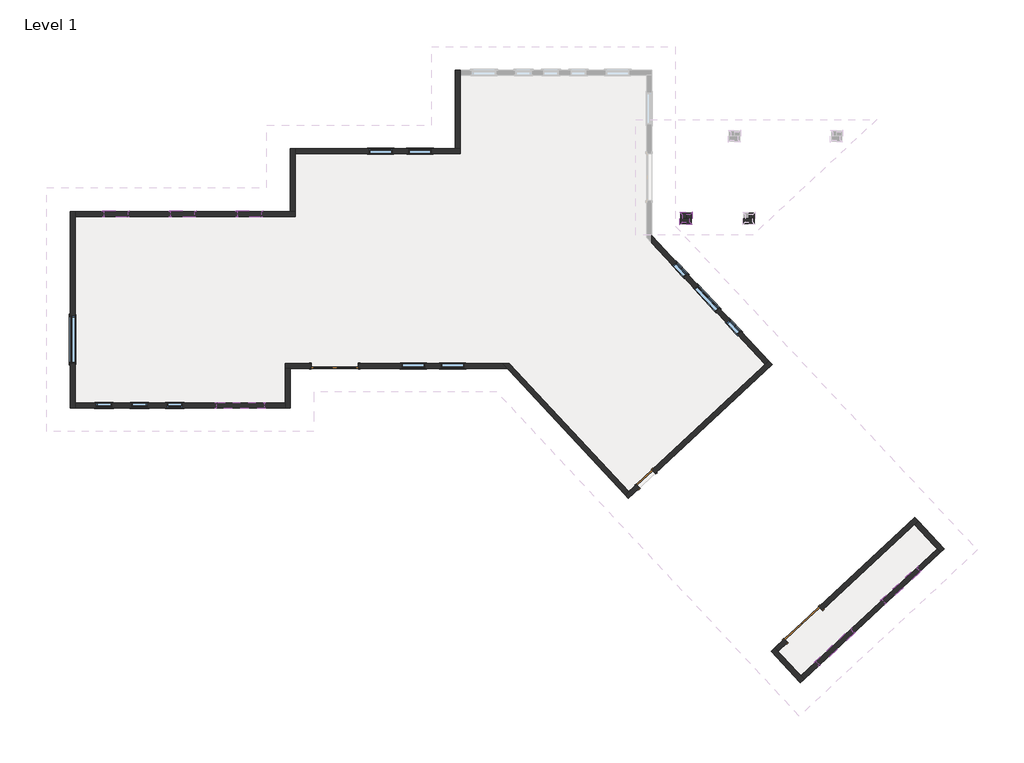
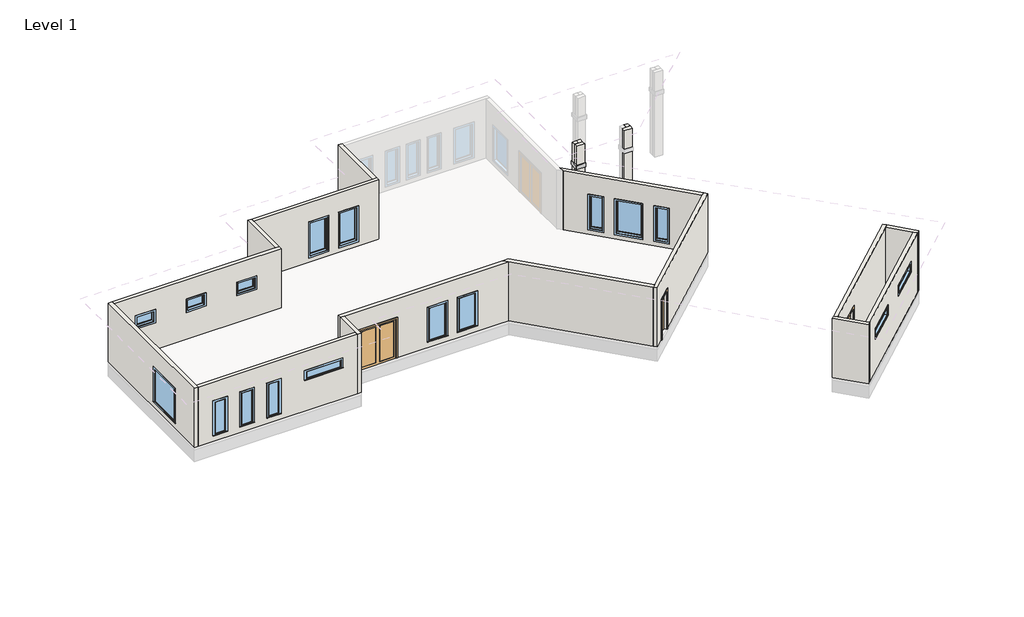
# One storey, part 1 of 2: 21 walls, 17 windows, 4 proxies, 3 doors.
"""IFC4 building model written with IfcOpenShell, lengths in millimetres."""

from ifc_helpers import new_model, si_unit, frame, origin, place, context, project, spatial, polyline, outline, extrude, faceted_brep, transform, mapped, element, save
from components import door_e0fa97f4, door_ae1b4af6, door_46f97d73, window_8ec664a6, window_aa1e092f, window_eea7dd42, window_e6bbc231, window_97fb18ba, window_4d68e60d, window_bde21944

model = new_model("IFC4")

# Units and contexts
model_context = context("Model", 3, world=origin())
ifc_project = project(units=[si_unit("LENGTHUNIT", "METRE", prefix="MILLI")], contexts=[model_context])

# Site, building, storey
site = spatial("IfcSite", under=ifc_project)
building = spatial("IfcBuilding", under=site)
storey = spatial("IfcBuildingStorey", under=building, Name="Level 1", Elevation=0.0)

# Proxies
placement = place(None, origin())
element("IfcBuildingElementProxy", 1, Name="Reveals", at=placement, inside=storey, context=model_context, shape_type="SweptSolid", body=[
    extrude(outline(polyline([(23652.4450389, 7110.4125), (23744.5200389, 7202.4875), (24039.7950389, 7202.4875), (24131.8700389, 7110.4125), (23652.4450389, 7110.4125)])), frame((0.0, 0.0, 2438.4), z_axis=(0.0, 0.0, 1.0), x_axis=(1.0, 0.0, 0.0)), (0.0, 0.0, 1.0), 203.2),
])
element("IfcBuildingElementProxy", 2, Name="Reveals", at=placement, inside=storey, context=model_context, shape_type="SweptSolid", body=[
    extrude(outline(polyline([(24131.8700389, 7110.4125), (24039.7950389, 7202.4875), (24039.7950389, 7497.7625), (24131.8700389, 7589.8375), (24131.8700389, 7110.4125)])), frame((0.0, 0.0, 2438.4), z_axis=(0.0, 0.0, 1.0), x_axis=(1.0, 0.0, 0.0)), (0.0, 0.0, 1.0), 203.2),
])
element("IfcBuildingElementProxy", 3, Name="Reveals", at=placement, inside=storey, context=model_context, shape_type="SweptSolid", body=[
    extrude(outline(polyline([(24131.8700389, 7589.8375), (24039.7950389, 7497.7625), (23744.5200389, 7497.7625), (23652.4450389, 7589.8375), (24131.8700389, 7589.8375)])), frame((0.0, 0.0, 2438.4), z_axis=(0.0, 0.0, 1.0), x_axis=(1.0, 0.0, 0.0)), (0.0, 0.0, 1.0), 203.2),
])
element("IfcBuildingElementProxy", 4, Name="Reveals", at=placement, inside=storey, context=model_context, shape_type="SweptSolid", body=[
    extrude(outline(polyline([(23744.5200389, 7202.4875), (23652.4450389, 7110.4125), (23652.4450389, 7589.8375), (23744.5200389, 7497.7625), (23744.5200389, 7202.4875)])), frame((0.0, 0.0, 2438.4), z_axis=(0.0, 0.0, 1.0), x_axis=(1.0, 0.0, 0.0)), (0.0, 0.0, 1.0), 203.2),
])

# Doors
door_shape = door_e0fa97f4(model_context)
element("IfcDoor", 5, ObjectType="Double-Flush : 72\" x 84\"", at=placement, inside=storey, context=model_context, shape_type="MappedRepresentation", body=[
    mapped(door_shape, transform((28439.8331583, -8417.4822972, 0.0), x_axis=(0.7313537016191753, 0.6819983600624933, 0.0), y_axis=(-0.6819983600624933, 0.7313537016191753, 0.0), z_axis=(0.0, 0.0, 1.0))),
])
door_2_shape = door_ae1b4af6(model_context)
element("IfcDoor", 6, ObjectType="Double-Glass 1 : 72\" x 84\"", at=placement, inside=storey, context=model_context, shape_type="MappedRepresentation", body=[
    mapped(door_2_shape, transform((10266.3625, 1623.21875, 0.0), x_axis=(-1.0, 0.0, 0.0), y_axis=(0.0, -1.0, 0.0), z_axis=(0.0, 0.0, 1.0))),
])
door_3_shape = door_46f97d73(model_context)
element("IfcDoor", 7, ObjectType="Single-Flush : 32\" x 84\"", at=placement, inside=storey, context=model_context, shape_type="MappedRepresentation", body=[
    mapped(door_3_shape, transform((22332.9588196, -2762.5051319, 0.0), x_axis=(-0.7313537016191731, -0.6819983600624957, 0.0), y_axis=(0.6819983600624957, -0.7313537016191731, 0.0), z_axis=(0.0, 0.0, 1.0))),
])

# Walls
element("IfcWall", 8, ObjectType="Column - 8\" Concrete", at=placement, inside=storey, context=model_context, shape_type="Brep", body=[
    faceted_brep([(23693.7200389, 7151.6875, -914.4), (24090.5950389, 7151.6875, -914.4), (24090.5950389, 7151.6875, 2438.4), (23693.7200389, 7151.6875, 2438.4), (24090.5950389, 7151.6875, 3657.6), (23693.7200389, 7151.6875, 3657.6), (23693.7200389, 7151.6875, 2641.6), (24090.5950389, 7151.6875, 2641.6), (24090.5950389, 7345.3625, -914.4), (23896.9200389, 7345.3625, -914.4), (23887.3950389, 7345.3625, -914.4), (23693.7200389, 7345.3625, -914.4), (23693.7200389, 7345.3625, 2438.4), (23744.5200389, 7345.3625, 2438.4), (23744.5200389, 7345.3625, 2641.6), (23693.7200389, 7345.3625, 2641.6), (23693.7200389, 7345.3625, 3657.6), (23887.3950389, 7345.3625, 3657.6), (23896.9200389, 7345.3625, 3657.6), (24090.5950389, 7345.3625, 3657.6), (24090.5950389, 7345.3625, 2641.6), (24039.7950389, 7345.3625, 2641.6), (24039.7950389, 7345.3625, 2438.4), (24090.5950389, 7345.3625, 2438.4), (23744.5200389, 7202.4875, 2641.6), (23744.5200389, 7202.4875, 2438.4), (24039.7950389, 7202.4875, 2438.4), (24039.7950389, 7202.4875, 2641.6)], [[[0, 1, 2, 3]], [[4, 5, 6, 7]], [[8, 9, 10, 11, 12, 13, 14, 15, 16, 17, 18, 19, 20, 21, 22, 23]], [[1, 0, 11, 10, 9, 8]], [[1, 8, 23, 2]], [[19, 4, 7, 20]], [[24, 25, 26, 27]], [[27, 26, 22, 21]], [[11, 0, 3, 12]], [[5, 16, 15, 6]], [[24, 27, 21, 20, 7, 6, 15, 14]], [[26, 25, 13, 12, 3, 2, 23, 22]], [[25, 24, 14, 13]], [[5, 4, 19, 18, 17, 16]]]),
])
element("IfcWall", 9, ObjectType="Column - 8\" Concrete", at=placement, inside=storey, context=model_context, shape_type="Brep", body=[
    faceted_brep([(24090.5950389, 7345.3625, -914.4), (24090.5950389, 7548.5625, -914.4), (24090.5950389, 7548.5625, 2438.4), (24090.5950389, 7345.3625, 2438.4), (24090.5950389, 7548.5625, 3657.6), (24090.5950389, 7345.3625, 3657.6), (24090.5950389, 7345.3625, 2641.6), (24090.5950389, 7548.5625, 2641.6), (23896.9200389, 7548.5625, -914.4), (23896.9200389, 7354.8875, -914.4), (23896.9200389, 7345.3625, -914.4), (23896.9200389, 7345.3625, 3657.6), (23896.9200389, 7354.8875, 3657.6), (23896.9200389, 7548.5625, 3657.6), (23896.9200389, 7548.5625, 2641.6), (23896.9200389, 7497.7625, 2641.6), (23896.9200389, 7497.7625, 2438.4), (23896.9200389, 7548.5625, 2438.4), (24039.7950389, 7345.3625, 2438.4), (24039.7950389, 7345.3625, 2641.6), (24039.7950389, 7497.7625, 2641.6), (24039.7950389, 7497.7625, 2438.4)], [[[0, 1, 2, 3]], [[4, 5, 6, 7]], [[8, 9, 10, 11, 12, 13, 14, 15, 16, 17]], [[1, 0, 10, 9, 8]], [[11, 10, 0, 3, 18, 19, 6, 5]], [[1, 8, 17, 2]], [[13, 4, 7, 14]], [[19, 20, 15, 14, 7, 6]], [[16, 21, 18, 3, 2, 17]], [[21, 20, 19, 18]], [[20, 21, 16, 15]], [[5, 4, 13, 12, 11]]]),
])
element("IfcWall", 10, ObjectType="Column - 8\" Concrete", at=placement, inside=storey, context=model_context, shape_type="Brep", body=[
    faceted_brep([(23896.9200389, 7548.5625, -914.4), (23693.7200389, 7548.5625, -914.4), (23693.7200389, 7548.5625, 2438.4), (23896.9200389, 7548.5625, 2438.4), (23693.7200389, 7548.5625, 3657.6), (23896.9200389, 7548.5625, 3657.6), (23896.9200389, 7548.5625, 2641.6), (23693.7200389, 7548.5625, 2641.6), (23693.7200389, 7354.8875, -914.4), (23887.3950389, 7354.8875, -914.4), (23896.9200389, 7354.8875, -914.4), (23896.9200389, 7354.8875, 3657.6), (23887.3950389, 7354.8875, 3657.6), (23693.7200389, 7354.8875, 3657.6), (23693.7200389, 7354.8875, 2641.6), (23744.5200389, 7354.8875, 2641.6), (23744.5200389, 7354.8875, 2438.4), (23693.7200389, 7354.8875, 2438.4), (23896.9200389, 7497.7625, 2438.4), (23896.9200389, 7497.7625, 2641.6), (23744.5200389, 7497.7625, 2641.6), (23744.5200389, 7497.7625, 2438.4)], [[[0, 1, 2, 3]], [[4, 5, 6, 7]], [[8, 9, 10, 11, 12, 13, 14, 15, 16, 17]], [[1, 0, 10, 9, 8]], [[11, 10, 0, 3, 18, 19, 6, 5]], [[19, 20, 15, 14, 7, 6]], [[16, 21, 18, 3, 2, 17]], [[21, 20, 19, 18]], [[1, 8, 17, 2]], [[13, 4, 7, 14]], [[20, 21, 16, 15]], [[5, 4, 13, 12, 11]]]),
])
element("IfcWall", 11, ObjectType="Column - 8\" Concrete", at=placement, inside=storey, context=model_context, shape_type="SweptSolid", body=[
    extrude(outline(polyline([(-914.4, 23887.3950389), (3657.6, 23887.3950389), (3657.6, 23693.7200389), (2641.6, 23693.7200389), (2641.6, 23744.5200389), (2438.4, 23744.5200389), (2438.4, 23693.7200389), (-914.4, 23693.7200389), (-914.4, 23887.3950389)])), frame((0.0, 7345.3625, 0.0), z_axis=(0.0, 1.0, 0.0), x_axis=(0.0, 0.0, 1.0)), (0.0, 0.0, 1.0), 9.525),
])
element("IfcWall", 12, ObjectType="Column - 8\" Concrete", at=placement, inside=storey, context=model_context, shape_type="Brep", body=[
    faceted_brep([(26132.1200389, 7151.6875, -914.4), (26528.9950389, 7151.6875, -914.4), (26528.9950389, 7151.6875, 2438.4), (26132.1200389, 7151.6875, 2438.4), (26528.9950389, 7151.6875, 3657.6), (26132.1200389, 7151.6875, 3657.6), (26132.1200389, 7151.6875, 2641.6), (26528.9950389, 7151.6875, 2641.6), (26528.9950389, 7345.3625, -914.4), (26335.3200389, 7345.3625, -914.4), (26325.7950389, 7345.3625, -914.4), (26132.1200389, 7345.3625, -914.4), (26132.1200389, 7345.3625, 2438.4), (26182.9200389, 7345.3625, 2438.4), (26182.9200389, 7345.3625, 2641.6), (26132.1200389, 7345.3625, 2641.6), (26132.1200389, 7345.3625, 3657.6), (26325.7950389, 7345.3625, 3657.6), (26335.3200389, 7345.3625, 3657.6), (26528.9950389, 7345.3625, 3657.6), (26528.9950389, 7345.3625, 2641.6), (26478.1950389, 7345.3625, 2641.6), (26478.1950389, 7345.3625, 2438.4), (26528.9950389, 7345.3625, 2438.4), (26182.9200389, 7202.4875, 2641.6), (26182.9200389, 7202.4875, 2438.4), (26478.1950389, 7202.4875, 2438.4), (26478.1950389, 7202.4875, 2641.6)], [[[0, 1, 2, 3]], [[4, 5, 6, 7]], [[8, 9, 10, 11, 12, 13, 14, 15, 16, 17, 18, 19, 20, 21, 22, 23]], [[1, 0, 11, 10, 9, 8]], [[1, 8, 23, 2]], [[19, 4, 7, 20]], [[24, 25, 26, 27]], [[27, 26, 22, 21]], [[11, 0, 3, 12]], [[5, 16, 15, 6]], [[24, 27, 21, 20, 7, 6, 15, 14]], [[26, 25, 13, 12, 3, 2, 23, 22]], [[25, 24, 14, 13]], [[5, 4, 19, 18, 17, 16]]]),
])
element("IfcWall", 13, ObjectType="Column - 8\" Concrete", at=placement, inside=storey, context=model_context, shape_type="Brep", body=[
    faceted_brep([(26528.9950389, 7345.3625, -914.4), (26528.9950389, 7548.5625, -914.4), (26528.9950389, 7548.5625, 2438.4), (26528.9950389, 7345.3625, 2438.4), (26528.9950389, 7548.5625, 3657.6), (26528.9950389, 7345.3625, 3657.6), (26528.9950389, 7345.3625, 2641.6), (26528.9950389, 7548.5625, 2641.6), (26335.3200389, 7548.5625, -914.4), (26335.3200389, 7354.8875, -914.4), (26335.3200389, 7345.3625, -914.4), (26335.3200389, 7345.3625, 3657.6), (26335.3200389, 7354.8875, 3657.6), (26335.3200389, 7548.5625, 3657.6), (26335.3200389, 7548.5625, 2641.6), (26335.3200389, 7497.7625, 2641.6), (26335.3200389, 7497.7625, 2438.4), (26335.3200389, 7548.5625, 2438.4), (26478.1950389, 7345.3625, 2438.4), (26478.1950389, 7345.3625, 2641.6), (26478.1950389, 7497.7625, 2641.6), (26478.1950389, 7497.7625, 2438.4)], [[[0, 1, 2, 3]], [[4, 5, 6, 7]], [[8, 9, 10, 11, 12, 13, 14, 15, 16, 17]], [[1, 0, 10, 9, 8]], [[11, 10, 0, 3, 18, 19, 6, 5]], [[1, 8, 17, 2]], [[13, 4, 7, 14]], [[19, 20, 15, 14, 7, 6]], [[16, 21, 18, 3, 2, 17]], [[21, 20, 19, 18]], [[20, 21, 16, 15]], [[5, 4, 13, 12, 11]]]),
])
element("IfcWall", 14, ObjectType="Generic - 8\" Concrete", at=placement, inside=storey, context=model_context, shape_type="Brep", body=[
    faceted_brep([(193.675, 0.0, 0.0), (193.675, 193.675, 0.0), (193.675, 7426.325, 0.0), (193.675, 7620.0, 0.0), (193.675, 7620.0, 3200.4), (193.675, 7426.325, 3200.4), (193.675, 193.675, 3200.4), (193.675, 0.0, 3200.4), (193.675, 3560.7625, 2133.6), (193.675, 3560.7625, 304.8), (193.675, 1731.9625, 304.8), (193.675, 1731.9625, 2133.6), (0.0, 0.0, 0.0), (0.0, 0.0, 3200.4), (0.0, 7620.0, 3200.4), (0.0, 7620.0, 0.0), (0.0, 3560.7625, 2133.6), (0.0, 1731.9625, 2133.6), (0.0, 1731.9625, 304.8), (0.0, 3560.7625, 304.8)], [[[0, 1, 2, 3, 4, 5, 6, 7], [8, 9, 10, 11]], [[12, 13, 14, 15], [16, 17, 18, 19]], [[3, 2, 1, 0, 12, 15]], [[4, 3, 15, 14]], [[0, 7, 13, 12]], [[7, 6, 5, 4, 14, 13]], [[9, 8, 16, 19]], [[10, 9, 19, 18]], [[11, 10, 18, 17]], [[8, 11, 17, 16]]]),
])
element("IfcWall", 15, ObjectType="Generic - 8\" Concrete", at=placement, inside=storey, context=model_context, shape_type="Brep", body=[
    faceted_brep([(193.675, 7426.325, 0.0), (8728.075, 7426.325, 0.0), (8728.075, 7426.325, 3200.4), (193.675, 7426.325, 3200.4), (7412.0375, 7426.325, 2133.6), (7412.0375, 7426.325, 1524.0), (6497.6375, 7426.325, 1524.0), (6497.6375, 7426.325, 2133.6), (4821.2375, 7426.325, 2133.6), (4821.2375, 7426.325, 1524.0), (3906.8375, 7426.325, 1524.0), (3906.8375, 7426.325, 2133.6), (2230.4375, 7426.325, 2133.6), (2230.4375, 7426.325, 1524.0), (1316.0375, 7426.325, 1524.0), (1316.0375, 7426.325, 2133.6), (193.675, 7620.0, 0.0), (193.675, 7620.0, 3200.4), (8534.4, 7620.0, 3200.4), (8728.075, 7620.0, 3200.4), (8728.075, 7620.0, 0.0), (8534.4, 7620.0, 0.0), (7412.0375, 7620.0, 2133.6), (6497.6375, 7620.0, 2133.6), (6497.6375, 7620.0, 1524.0), (7412.0375, 7620.0, 1524.0), (4821.2375, 7620.0, 2133.6), (3906.8375, 7620.0, 2133.6), (3906.8375, 7620.0, 1524.0), (4821.2375, 7620.0, 1524.0), (2230.4375, 7620.0, 2133.6), (1316.0375, 7620.0, 2133.6), (1316.0375, 7620.0, 1524.0), (2230.4375, 7620.0, 1524.0)], [[[0, 1, 2, 3], [4, 5, 6, 7], [8, 9, 10, 11], [12, 13, 14, 15]], [[16, 17, 18, 19, 20, 21], [22, 23, 24, 25], [26, 27, 28, 29], [30, 31, 32, 33]], [[1, 0, 16, 21, 20]], [[0, 3, 17, 16]], [[2, 1, 20, 19]], [[3, 2, 19, 18, 17]], [[5, 4, 22, 25]], [[6, 5, 25, 24]], [[7, 6, 24, 23]], [[4, 7, 23, 22]], [[9, 8, 26, 29]], [[10, 9, 29, 28]], [[11, 10, 28, 27]], [[8, 11, 27, 26]], [[13, 12, 30, 33]], [[14, 13, 33, 32]], [[15, 14, 32, 31]], [[12, 15, 31, 30]]]),
])
element("IfcWall", 16, ObjectType="Generic - 8\" Concrete", at=placement, inside=storey, context=model_context, shape_type="Brep", body=[
    faceted_brep([(8728.075, 7620.0, 0.0), (8728.075, 9864.725, 0.0), (8728.075, 10058.4, 0.0), (8728.075, 10058.4, 3200.4), (8728.075, 9864.725, 3200.4), (8728.075, 7620.0, 3200.4), (8534.4, 7620.0, 0.0), (8534.4, 7620.0, 3200.4), (8534.4, 10058.4, 3200.4), (8534.4, 10058.4, 0.0)], [[[0, 1, 2, 3, 4, 5]], [[6, 7, 8, 9]], [[2, 1, 0, 6, 9]], [[0, 5, 7, 6]], [[3, 2, 9, 8]], [[5, 4, 3, 8, 7]]]),
])
element("IfcWall", 17, ObjectType="Generic - 8\" Concrete", at=placement, inside=storey, context=model_context, shape_type="Brep", body=[
    faceted_brep([(8728.075, 9864.725, 0.0), (15128.875, 9864.725, 0.0), (15128.875, 9864.725, 3200.4), (8728.075, 9864.725, 3200.4), (12505.6485918, 9864.725, 2133.6), (12505.6485918, 9864.725, 304.8), (11591.2485918, 9864.725, 304.8), (11591.2485918, 9864.725, 2133.6), (14029.6485918, 9864.725, 2133.6), (14029.6485918, 9864.725, 304.8), (13115.2485918, 9864.725, 304.8), (13115.2485918, 9864.725, 2133.6), (8728.075, 10058.4, 0.0), (8728.075, 10058.4, 3200.4), (14935.2, 10058.4, 3200.4), (15128.875, 10058.4, 3200.4), (15128.875, 10058.4, 0.0), (14935.2, 10058.4, 0.0), (12505.6485918, 10058.4, 2133.6), (11591.2485918, 10058.4, 2133.6), (11591.2485918, 10058.4, 304.8), (12505.6485918, 10058.4, 304.8), (14029.6485918, 10058.4, 2133.6), (13115.2485918, 10058.4, 2133.6), (13115.2485918, 10058.4, 304.8), (14029.6485918, 10058.4, 304.8)], [[[0, 1, 2, 3], [4, 5, 6, 7], [8, 9, 10, 11]], [[12, 13, 14, 15, 16, 17], [18, 19, 20, 21], [22, 23, 24, 25]], [[1, 0, 12, 17, 16]], [[0, 3, 13, 12]], [[2, 1, 16, 15]], [[3, 2, 15, 14, 13]], [[5, 4, 18, 21]], [[6, 5, 21, 20]], [[7, 6, 20, 19]], [[4, 7, 19, 18]], [[9, 8, 22, 25]], [[10, 9, 25, 24]], [[11, 10, 24, 23]], [[8, 11, 23, 22]]]),
])
element("IfcWall", 18, ObjectType="Generic - 8\" Concrete", at=placement, inside=storey, context=model_context, shape_type="Brep", body=[
    faceted_brep([(15128.875, 10058.4, 0.0), (15128.875, 12912.725, 0.0), (15128.875, 13106.4, 0.0), (15128.875, 13106.4, 3200.4), (15128.875, 12912.725, 3200.4), (15128.875, 10058.4, 3200.4), (14935.2, 10058.4, 0.0), (14935.2, 10058.4, 3200.4), (14935.2, 13106.4, 3200.4), (14935.2, 13106.4, 0.0)], [[[0, 1, 2, 3, 4, 5]], [[6, 7, 8, 9]], [[2, 1, 0, 6, 9]], [[0, 5, 7, 6]], [[3, 2, 9, 8]], [[5, 4, 3, 8, 7]]]),
])
element("IfcWall", 19, ObjectType="Generic - 8\" Concrete", at=placement, inside=storey, context=model_context, shape_type="Brep", body=[
    faceted_brep([(21969.6936591, -2968.8468013, 2133.6), (21969.6936591, -2968.8468013, 0.0), (21668.9884427, -3249.2589521, 0.0), (21527.3435146, -3381.3449845, 0.0), (21527.3435146, -3381.3449845, 3200.4), (21668.9884427, -3249.2589521, 3200.4), (26955.6736141, 1680.6547259, 3200.4), (27097.3185422, 1812.7407582, 3200.4), (27097.3185422, 1812.7407582, 0.0), (26955.6736141, 1680.6547259, 0.0), (22564.1379478, -2414.5185343, 0.0), (22564.1379478, -2414.5185343, 2133.6), (21659.429547, -3522.9899126, 0.0), (22101.7796915, -3110.4917295, 0.0), (22101.7796915, -3110.4917295, 2133.6), (22696.2239801, -2556.1634625, 2133.6), (22696.2239801, -2556.1634625, 0.0), (27229.4045746, 1671.0958301, 0.0), (27229.4045746, 1671.0958301, 3200.4), (21659.429547, -3522.9899126, 3200.4)], [[[0, 1, 2, 3, 4, 5, 6, 7, 8, 9, 10, 11]], [[12, 13, 14, 15, 16, 17, 18, 19]], [[3, 2, 1, 13, 12]], [[10, 9, 8, 17, 16]], [[4, 3, 12, 19]], [[14, 13, 1, 0]], [[15, 14, 0, 11]], [[16, 15, 11, 10]], [[7, 6, 5, 4, 19, 18]], [[8, 7, 18, 17]]]),
])
element("IfcWall", 20, ObjectType="Generic - 8\" Concrete", at=placement, inside=storey, context=model_context, shape_type="Brep", body=[
    faceted_brep([(21668.9884427, -3249.2589521, 0.0), (17037.2476006, 1717.675, 0.0), (17037.2476006, 1717.675, 3200.4), (21668.9884427, -3249.2589521, 3200.4), (21527.3435146, -3381.3449845, 0.0), (21527.3435146, -3381.3449845, 3200.4), (16953.0353139, 1524.0, 3200.4), (16772.4304546, 1717.675, 3200.4), (16772.4304546, 1717.675, 0.0), (16953.0353139, 1524.0, 0.0)], [[[0, 1, 2, 3]], [[4, 5, 6, 7, 8, 9]], [[1, 0, 4, 9, 8]], [[0, 3, 5, 4]], [[2, 1, 8, 7]], [[3, 2, 7, 6, 5]]]),
])
element("IfcWall", 21, ObjectType="Generic - 8\" Concrete", at=placement, inside=storey, context=model_context, shape_type="Brep", body=[
    faceted_brep([(8340.725, 1717.675, 0.0), (8340.725, 1717.675, 3200.4), (16772.4304546, 1717.675, 3200.4), (16772.4304546, 1717.675, 0.0), (11180.7625, 1717.675, 0.0), (11180.7625, 1717.675, 2133.6), (9351.9625, 1717.675, 2133.6), (9351.9625, 1717.675, 0.0), (13771.5625, 1717.675, 2133.6), (12857.1625, 1717.675, 2133.6), (12857.1625, 1717.675, 304.8), (13771.5625, 1717.675, 304.8), (15295.5625, 1717.675, 2133.6), (14381.1625, 1717.675, 2133.6), (14381.1625, 1717.675, 304.8), (15295.5625, 1717.675, 304.8), (8340.725, 1524.0, 3200.4), (8340.725, 1524.0, 0.0), (8534.4, 1524.0, 0.0), (9351.9625, 1524.0, 0.0), (9351.9625, 1524.0, 2133.6), (11180.7625, 1524.0, 2133.6), (11180.7625, 1524.0, 0.0), (16953.0353139, 1524.0, 0.0), (16953.0353139, 1524.0, 3200.4), (8534.4, 1524.0, 3200.4), (13771.5625, 1524.0, 2133.6), (13771.5625, 1524.0, 304.8), (12857.1625, 1524.0, 304.8), (12857.1625, 1524.0, 2133.6), (15295.5625, 1524.0, 2133.6), (15295.5625, 1524.0, 304.8), (14381.1625, 1524.0, 304.8), (14381.1625, 1524.0, 2133.6)], [[[0, 1, 2, 3, 4, 5, 6, 7], [8, 9, 10, 11], [12, 13, 14, 15]], [[16, 17, 18, 19, 20, 21, 22, 23, 24, 25], [26, 27, 28, 29], [30, 31, 32, 33]], [[17, 0, 7, 19, 18]], [[3, 23, 22, 4]], [[1, 0, 17, 16]], [[3, 2, 24, 23]], [[6, 20, 19, 7]], [[20, 6, 5, 21]], [[21, 5, 4, 22]], [[27, 26, 8, 11]], [[28, 27, 11, 10]], [[29, 28, 10, 9]], [[26, 29, 9, 8]], [[2, 1, 16, 25, 24]], [[31, 30, 12, 15]], [[32, 31, 15, 14]], [[33, 32, 14, 13]], [[30, 33, 13, 12]]]),
])
element("IfcWall", 22, ObjectType="Generic - 8\" Concrete", at=placement, inside=storey, context=model_context, shape_type="Brep", body=[
    faceted_brep([(8340.725, 1524.0, 0.0), (8340.725, 193.675, 0.0), (8340.725, 0.0, 0.0), (8340.725, 0.0, 3200.4), (8340.725, 193.675, 3200.4), (8340.725, 1524.0, 3200.4), (8534.4, 1524.0, 0.0), (8534.4, 1524.0, 3200.4), (8534.4, 0.0, 3200.4), (8534.4, 0.0, 0.0)], [[[0, 1, 2, 3, 4, 5]], [[6, 7, 8, 9]], [[2, 1, 0, 6, 9]], [[0, 5, 7, 6]], [[3, 2, 9, 8]], [[5, 4, 3, 8, 7]]]),
])
element("IfcWall", 23, ObjectType="Generic - 8\" Concrete", at=placement, inside=storey, context=model_context, shape_type="SweptSolid", body=[
    extrude(outline(polyline([(0.0, 8340.725), (3200.4, 8340.725), (3200.4, 193.675), (0.0, 193.675), (0.0, 8340.725)]), holes=[polyline([(2133.6, 1011.2375), (2133.6, 1620.8375), (304.8, 1620.8375), (304.8, 1011.2375), (2133.6, 1011.2375)]), polyline([(2133.6, 3754.4375), (2133.6, 4364.0375), (304.8, 4364.0375), (304.8, 3754.4375), (2133.6, 3754.4375)]), polyline([(2133.6, 5694.3625), (2133.6, 7523.1625), (1676.4, 7523.1625), (1676.4, 5694.3625), (2133.6, 5694.3625)]), polyline([(2133.6, 2382.8375), (2133.6, 2992.4375), (304.8, 2992.4375), (304.8, 2382.8375), (2133.6, 2382.8375)])]), frame((0.0, 0.0, 0.0), z_axis=(0.0, 1.0, 0.0), x_axis=(0.0, 0.0, 1.0)), (0.0, 0.0, 1.0), 193.675),
])
element("IfcWall", 24, ObjectType="Generic - 8\" Concrete", at=placement, inside=storey, context=model_context, shape_type="Brep", body=[
    faceted_brep([(28472.635147, -10545.2767918, 0.0), (28340.5491146, -10403.6318636, 0.0), (27462.1155973, -9461.6272458, 0.0), (27330.0295649, -9319.9823177, 0.0), (27330.0295649, -9319.9823177, 3200.4), (27462.1155973, -9461.6272458, 3200.4), (28340.5491146, -10403.6318636, 3200.4), (28472.635147, -10545.2767918, 3200.4), (28330.9902189, -10677.3628242, 0.0), (28330.9902189, -10677.3628242, 3200.4), (27188.3846368, -9452.06835, 3200.4), (27188.3846368, -9452.06835, 0.0)], [[[0, 1, 2, 3, 4, 5, 6, 7]], [[8, 9, 10, 11]], [[3, 2, 1, 0, 8, 11]], [[0, 7, 9, 8]], [[4, 3, 11, 10]], [[7, 6, 5, 4, 10, 9]]]),
])
element("IfcWall", 25, ObjectType="Generic - 8\" Concrete", at=placement, inside=storey, context=model_context, shape_type="Brep", body=[
    faceted_brep([(27462.1155973, -9461.6272458, 3200.4), (27462.1155973, -9461.6272458, 0.0), (27837.1263497, -9111.9240617, 0.0), (27837.1263497, -9111.9240617, 2133.6), (29174.6259993, -7864.6854608, 2133.6), (29174.6259993, -7864.6854608, 0.0), (32748.8007687, -4531.7135679, 0.0), (32890.4456968, -4399.6275355, 0.0), (32890.4456968, -4399.6275355, 3200.4), (32748.8007687, -4531.7135679, 3200.4), (27330.0295649, -9319.9823177, 0.0), (27330.0295649, -9319.9823177, 3200.4), (32758.3596644, -4257.9826073, 3200.4), (32758.3596644, -4257.9826073, 0.0), (29042.5399669, -7723.0405327, 0.0), (29042.5399669, -7723.0405327, 2133.6), (27705.0403174, -8970.2791336, 2133.6), (27705.0403174, -8970.2791336, 0.0)], [[[0, 1, 2, 3, 4, 5, 6, 7, 8, 9]], [[10, 11, 12, 13, 14, 15, 16, 17]], [[1, 10, 17, 2]], [[13, 7, 6, 5, 14]], [[1, 0, 11, 10]], [[8, 7, 13, 12]], [[4, 15, 14, 5]], [[15, 4, 3, 16]], [[16, 3, 2, 17]], [[0, 9, 8, 12, 11]]]),
])
element("IfcWall", 26, ObjectType="Generic - 8\" Concrete", at=placement, inside=storey, context=model_context, shape_type="Brep", body=[
    faceted_brep([(32748.8007687, -4531.7135679, 0.0), (33627.234286, -5473.7181857, 0.0), (33759.3203184, -5615.3631139, 0.0), (33759.3203184, -5615.3631139, 3200.4), (33627.234286, -5473.7181857, 3200.4), (32748.8007687, -4531.7135679, 3200.4), (32890.4456968, -4399.6275355, 0.0), (32890.4456968, -4399.6275355, 3200.4), (33900.9652465, -5483.2770815, 3200.4), (33900.9652465, -5483.2770815, 0.0)], [[[0, 1, 2, 3, 4, 5]], [[6, 7, 8, 9]], [[2, 1, 0, 6, 9]], [[3, 2, 9, 8]], [[0, 5, 7, 6]], [[5, 4, 3, 8, 7]]]),
])
element("IfcWall", 27, ObjectType="Generic - 8\" Concrete", at=placement, inside=storey, context=model_context, shape_type="SweptSolid", body=[
    extrude(outline(polyline([(-189.7832293, 0.0), (-189.7832293, -3200.4), (-7418.4130423, -3200.4), (-7418.4130423, 0.0), (-189.7832293, 0.0)]), holes=[polyline([(-4772.0505423, -2286.0), (-4772.0505423, -1828.8), (-6600.8505422, -1828.8), (-6600.8505422, -2286.0), (-4772.0505423, -2286.0)]), polyline([(-1266.8505423, -2286.0), (-1266.8505423, -1828.8), (-3095.6505423, -1828.8), (-3095.6505423, -2286.0), (-1266.8505423, -2286.0)])]), frame((33898.1189856, -5485.9312627, 0.0), z_axis=(-0.6819983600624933, 0.7313537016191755, 0.0), x_axis=(0.7313537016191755, 0.6819983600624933, 0.0)), (0.0, 0.0, 1.0), 193.675),
])
element("IfcWall", 28, ObjectType="Generic - 8\" Concrete", at=placement, inside=storey, context=model_context, shape_type="Brep", body=[
    faceted_brep([(22555.2, 6399.5849389, 0.0), (26955.6736141, 1680.6547259, 0.0), (26955.6736141, 1680.6547259, 3200.4), (22555.2, 6399.5849389, 3200.4), (25878.4145795, 2835.8736072, 2133.6), (25878.4145795, 2835.8736072, 304.8), (25462.6683792, 3281.7068237, 304.8), (25462.6683792, 3281.7068237, 2133.6), (24215.4297783, 4619.2064732, 304.8), (24215.4297783, 4619.2064732, 2133.6), (25046.9221789, 3727.5400402, 2133.6), (25046.9221789, 3727.5400402, 304.8), (23799.683578, 5065.0396897, 2133.6), (23799.683578, 5065.0396897, 304.8), (23383.9373777, 5510.8729062, 304.8), (23383.9373777, 5510.8729062, 2133.6), (27097.3185422, 1812.7407582, 0.0), (22555.2, 6683.5665602, 0.0), (22555.2, 6683.5665602, 3200.4), (27097.3185422, 1812.7407582, 3200.4), (26020.0595076, 2967.9596396, 2133.6), (25604.3133073, 3413.7928561, 2133.6), (25604.3133073, 3413.7928561, 304.8), (26020.0595076, 2967.9596396, 304.8), (24357.0747065, 4751.2925056, 2133.6), (24357.0747065, 4751.2925056, 304.8), (25188.567107, 3859.6260726, 304.8), (25188.567107, 3859.6260726, 2133.6), (23941.3285062, 5197.1257221, 2133.6), (23525.5823059, 5642.9589386, 2133.6), (23525.5823059, 5642.9589386, 304.8), (23941.3285062, 5197.1257221, 304.8)], [[[0, 1, 2, 3], [4, 5, 6, 7], [8, 9, 10, 11], [12, 13, 14, 15]], [[16, 17, 18, 19], [20, 21, 22, 23], [24, 25, 26, 27], [28, 29, 30, 31]], [[1, 0, 17, 16]], [[2, 1, 16, 19]], [[3, 2, 19, 18]], [[0, 3, 18, 17]], [[5, 4, 20, 23]], [[6, 5, 23, 22]], [[7, 6, 22, 21]], [[4, 7, 21, 20]], [[24, 9, 8, 25]], [[25, 8, 11, 26]], [[26, 11, 10, 27]], [[9, 24, 27, 10]], [[13, 12, 28, 31]], [[14, 13, 31, 30]], [[15, 14, 30, 29]], [[12, 15, 29, 28]]]),
])

# Windows
window_shape = window_8ec664a6(model_context)
element("IfcWindow", 29, ObjectType="Casement with Trim : 24\" x 72\"", at=placement, inside=storey, context=model_context, shape_type="MappedRepresentation", body=[
    mapped(window_shape, transform((1316.0375, 96.8375, 0.0), x_axis=(-1.0, 0.0, 0.0), y_axis=(0.0, -1.0, 0.0), z_axis=(0.0, 0.0, 1.0))),
])
element("IfcWindow", 30, ObjectType="Casement with Trim : 24\" x 72\"", at=placement, inside=storey, context=model_context, shape_type="MappedRepresentation", body=[
    mapped(window_shape, transform((4059.2375, 96.8375, 0.0), x_axis=(-1.0, 0.0, 0.0), y_axis=(0.0, -1.0, 0.0), z_axis=(0.0, 0.0, 1.0))),
])
element("IfcWindow", 31, ObjectType="Casement with Trim : 24\" x 72\"", at=placement, inside=storey, context=model_context, shape_type="MappedRepresentation", body=[
    mapped(window_shape, transform((2687.6375, 96.8375, 0.0), x_axis=(-1.0, 0.0, 0.0), y_axis=(0.0, -1.0, 0.0), z_axis=(0.0, 0.0, 1.0))),
])
element("IfcWindow", 32, ObjectType="Casement with Trim : 24\" x 72\"", at=placement, inside=storey, context=model_context, shape_type="MappedRepresentation", body=[
    mapped(window_shape, transform((25741.3639434, 3124.8332316, 0.0), x_axis=(0.6819983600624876, -0.7313537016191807, 0.0), y_axis=(0.7313537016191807, 0.6819983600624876, 0.0), z_axis=(0.0, 0.0, 1.0))),
])
element("IfcWindow", 33, ObjectType="Casement with Trim : 24\" x 72\"", at=placement, inside=storey, context=model_context, shape_type="MappedRepresentation", body=[
    mapped(window_shape, transform((23662.6329419, 5353.9993142, 0.0), x_axis=(0.6819983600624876, -0.7313537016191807, 0.0), y_axis=(0.7313537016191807, 0.6819983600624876, 0.0), z_axis=(0.0, 0.0, 1.0))),
])
window_2_shape = window_aa1e092f(model_context)
element("IfcWindow", 34, ObjectType="Casement with Trim : 36\" x 24\"", at=placement, inside=storey, context=model_context, shape_type="MappedRepresentation", body=[
    mapped(window_2_shape, transform((6954.8375, 7523.1625, 609.6), x_axis=(1.0, 0.0, 0.0), y_axis=(0.0, 1.0, 0.0), z_axis=(0.0, 0.0, 1.0))),
])
element("IfcWindow", 35, ObjectType="Casement with Trim : 36\" x 24\"", at=placement, inside=storey, context=model_context, shape_type="MappedRepresentation", body=[
    mapped(window_2_shape, transform((4364.0375, 7523.1625, 609.6), x_axis=(1.0, 0.0, 0.0), y_axis=(0.0, 1.0, 0.0), z_axis=(0.0, 0.0, 1.0))),
])
element("IfcWindow", 36, ObjectType="Casement with Trim : 36\" x 24\"", at=placement, inside=storey, context=model_context, shape_type="MappedRepresentation", body=[
    mapped(window_2_shape, transform((1773.2375, 7523.1625, 609.6), x_axis=(1.0, 0.0, 0.0), y_axis=(0.0, 1.0, 0.0), z_axis=(0.0, 0.0, 1.0))),
])
window_3_shape = window_eea7dd42(model_context)
element("IfcWindow", 37, ObjectType="Casement with Trim : 36\" x 72\"", at=placement, inside=storey, context=model_context, shape_type="MappedRepresentation", body=[
    mapped(window_3_shape, transform((13314.3625, 1620.8375, 0.0), x_axis=(1.0, 0.0, 0.0), y_axis=(0.0, 1.0, 0.0), z_axis=(0.0, 0.0, 1.0))),
])
element("IfcWindow", 38, ObjectType="Casement with Trim : 36\" x 72\"", at=placement, inside=storey, context=model_context, shape_type="MappedRepresentation", body=[
    mapped(window_3_shape, transform((14838.3625, 1620.8375, 0.0), x_axis=(1.0, 0.0, 0.0), y_axis=(0.0, 1.0, 0.0), z_axis=(0.0, 0.0, 1.0))),
])
window_4_shape = window_e6bbc231(model_context)
element("IfcWindow", 39, ObjectType="Casement with Trim : 36\" x 72\"", at=placement, inside=storey, context=model_context, shape_type="MappedRepresentation", body=[
    mapped(window_4_shape, transform((12048.4485918, 9961.5625, 0.0), x_axis=(1.0, 0.0, 0.0), y_axis=(0.0, 1.0, 0.0), z_axis=(0.0, 0.0, 1.0))),
])
element("IfcWindow", 40, ObjectType="Casement with Trim : 36\" x 72\"", at=placement, inside=storey, context=model_context, shape_type="MappedRepresentation", body=[
    mapped(window_4_shape, transform((13572.4485918, 9961.5625, 0.0), x_axis=(1.0, 0.0, 0.0), y_axis=(0.0, 1.0, 0.0), z_axis=(0.0, 0.0, 1.0))),
])
window_5_shape = window_97fb18ba(model_context)
element("IfcWindow", 41, ObjectType="Casement with Trim : 48\" x 72\"", at=placement, inside=storey, context=model_context, shape_type="MappedRepresentation", body=[
    mapped(window_5_shape, transform((24701.9984427, 4239.4162729, 0.0), x_axis=(-0.6819983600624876, 0.7313537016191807, 0.0), y_axis=(-0.7313537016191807, -0.6819983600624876, 0.0), z_axis=(0.0, 0.0, 1.0))),
])
window_6_shape = window_4d68e60d(model_context)
element("IfcWindow", 42, ObjectType="Casement with Trim : 72\" x 18\"", at=placement, inside=storey, context=model_context, shape_type="MappedRepresentation", body=[
    mapped(window_6_shape, transform((29673.2693163, -9293.258743, 1524.0), x_axis=(0.7313537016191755, 0.6819983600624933, 0.0), y_axis=(-0.6819983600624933, 0.7313537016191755, 0.0), z_axis=(0.0, 0.0, 1.0))),
])
element("IfcWindow", 43, ObjectType="Casement with Trim : 72\" x 18\"", at=placement, inside=storey, context=model_context, shape_type="MappedRepresentation", body=[
    mapped(window_6_shape, transform((32236.8103112, -6902.7180913, 1524.0), x_axis=(0.7313537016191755, 0.6819983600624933, 0.0), y_axis=(-0.6819983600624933, 0.7313537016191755, 0.0), z_axis=(0.0, 0.0, 1.0))),
])
element("IfcWindow", 44, ObjectType="Casement with Trim : 72\" x 18\"", at=placement, inside=storey, context=model_context, shape_type="MappedRepresentation", body=[
    mapped(window_6_shape, transform((6608.7625, 96.8375, 1371.6), x_axis=(-1.0, 0.0, 0.0), y_axis=(0.0, -1.0, 0.0), z_axis=(0.0, 0.0, 1.0))),
])
window_7_shape = window_bde21944(model_context)
element("IfcWindow", 45, ObjectType="Casement with Trim : 72\" x 72\"", at=placement, inside=storey, context=model_context, shape_type="MappedRepresentation", body=[
    mapped(window_7_shape, transform((96.8375, 2646.3625, 0.0), x_axis=(0.0, 1.0, 0.0), y_axis=(-1.0, 0.0, 0.0), z_axis=(0.0, 0.0, 1.0))),
])

save(model, "model.ifc")
